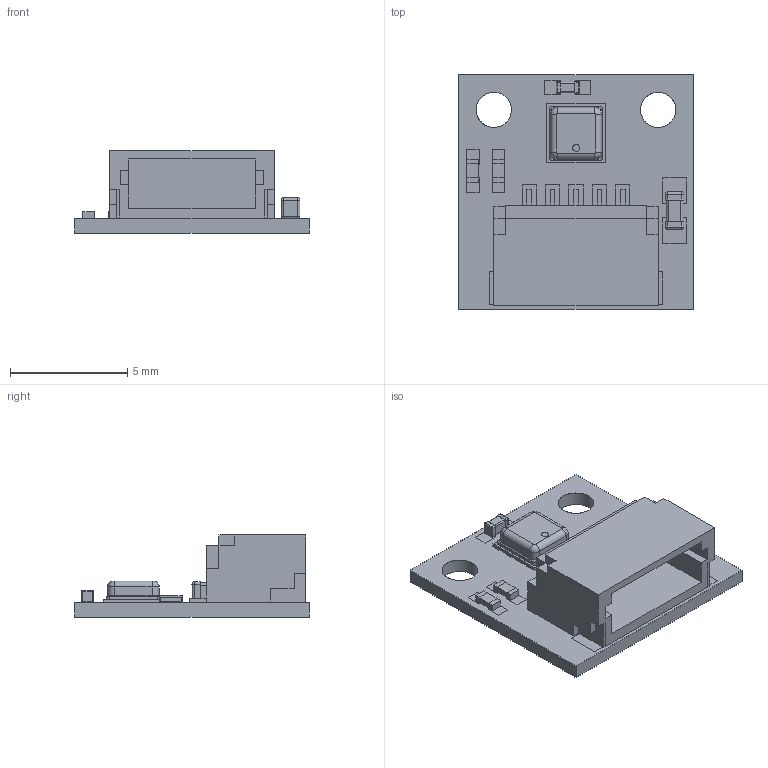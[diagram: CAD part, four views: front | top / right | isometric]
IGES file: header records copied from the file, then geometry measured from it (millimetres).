
Global section: file name: Filename.iges; native system: Open CASCADE 7.4; preprocessor: Open CASCADE IGES processor 7.4; date: 20200729.111811; units: millimetre
Bounding box: 10 x 10 x 3.5 mm (x, y, z)
Surface area: 688 mm2 (no closed solid volume)
Topology: 0 solids, 0 shells, 752 faces, 3704 edges, 4580 vertices
Faces by surface type: plane 638, revolution 114
